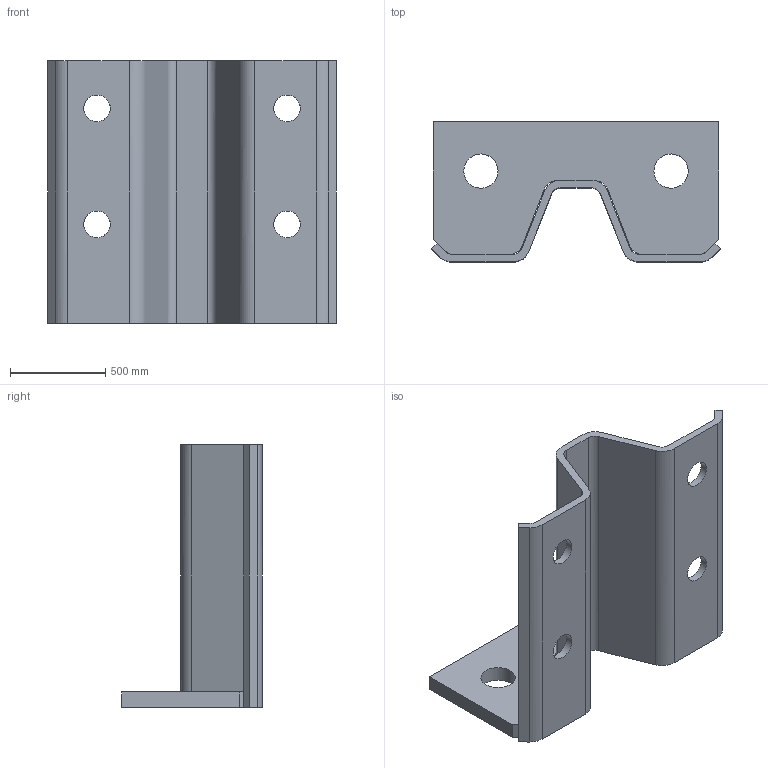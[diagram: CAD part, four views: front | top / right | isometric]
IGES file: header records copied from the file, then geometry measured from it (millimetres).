
Global section: file name: ZB155W100; native system: Autodesk RealDWG; preprocessor: Autodesk Translation Framework DWG producer (atf_dwg_producer); organization: unknown; date: 20241104.112447; units: centimetre
Bounding box: 1517.2 x 740 x 1380 mm (x, y, z)
Volume: 174292695.4 mm3; surface area: 7896398.8 mm2
Topology: 2 solids, 2 shells, 54 faces, 158 edges, 108 vertices
Faces by surface type: bspline 54
